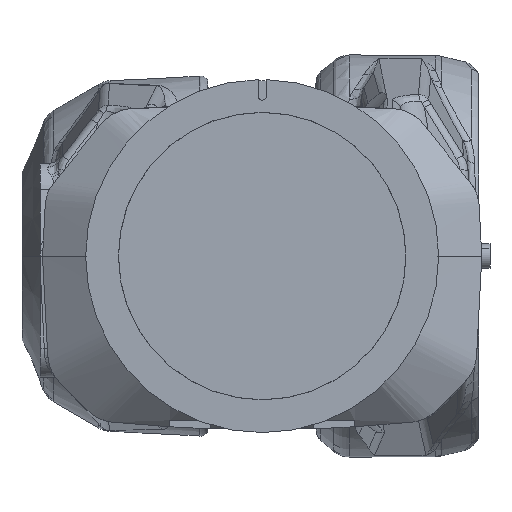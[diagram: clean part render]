
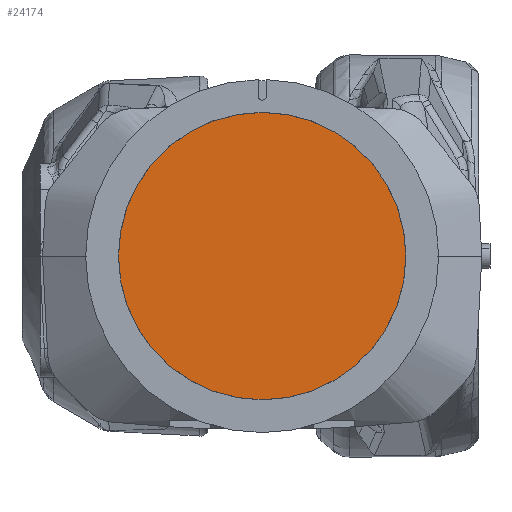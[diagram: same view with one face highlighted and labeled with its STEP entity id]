
A CAD part, left-side view. The second image highlights one B-rep face of the part: STEP entity #24174.
In plain terms, the highlighted planar face has unit normal (-1, 0, 0).
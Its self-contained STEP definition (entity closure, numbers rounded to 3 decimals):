
#439 = CARTESIAN_POINT ( 'NONE',  ( 515.1, 70., 1570. ) ) ;
#1845 = EDGE_CURVE ( 'NONE', #19738, #27164, #12702, .T. ) ;
#6027 = PLANE ( 'NONE',  #34083 ) ;
#12702 = CIRCLE ( 'NONE', #15309, 70. ) ;
#15309 = AXIS2_PLACEMENT_3D ( 'NONE', #16446, #36786, #36403 ) ;
#16446 = CARTESIAN_POINT ( 'NONE',  ( 515.1, 0., 1570. ) ) ;
#17470 = EDGE_CURVE ( 'NONE', #27164, #19738, #34117, .T. ) ;
#17635 = EDGE_LOOP ( 'NONE', ( #25618, #40062 ) ) ;
#19738 = VERTEX_POINT ( 'NONE', #439 ) ;
#21945 = DIRECTION ( 'NONE',  ( 1., 0., 0. ) ) ;
#24174 = ADVANCED_FACE ( 'NONE', ( #35509 ), #6027, .F. ) ;
#25618 = ORIENTED_EDGE ( 'NONE', *, *, #1845, .F. ) ;
#26261 = DIRECTION ( 'NONE',  ( 0., 1., 0. ) ) ;
#26302 = DIRECTION ( 'NONE',  ( 1., 0., 0. ) ) ;
#26350 = CARTESIAN_POINT ( 'NONE',  ( 515.1, 0., 1570. ) ) ;
#27164 = VERTEX_POINT ( 'NONE', #39618 ) ;
#33511 = AXIS2_PLACEMENT_3D ( 'NONE', #26350, #26302, #26261 ) ;
#34083 = AXIS2_PLACEMENT_3D ( 'NONE', #38602, #21945, #37823 ) ;
#34117 = CIRCLE ( 'NONE', #33511, 70. ) ;
#35509 = FACE_OUTER_BOUND ( 'NONE', #17635, .T. ) ;
#36403 = DIRECTION ( 'NONE',  ( 0., 1., 0. ) ) ;
#36786 = DIRECTION ( 'NONE',  ( 1., 0., 0. ) ) ;
#37823 = DIRECTION ( 'NONE',  ( 0., 1., 0. ) ) ;
#38602 = CARTESIAN_POINT ( 'NONE',  ( 515.1, 0., 1640. ) ) ;
#39618 = CARTESIAN_POINT ( 'NONE',  ( 515.1, -70., 1570. ) ) ;
#40062 = ORIENTED_EDGE ( 'NONE', *, *, #17470, .F. ) ;
